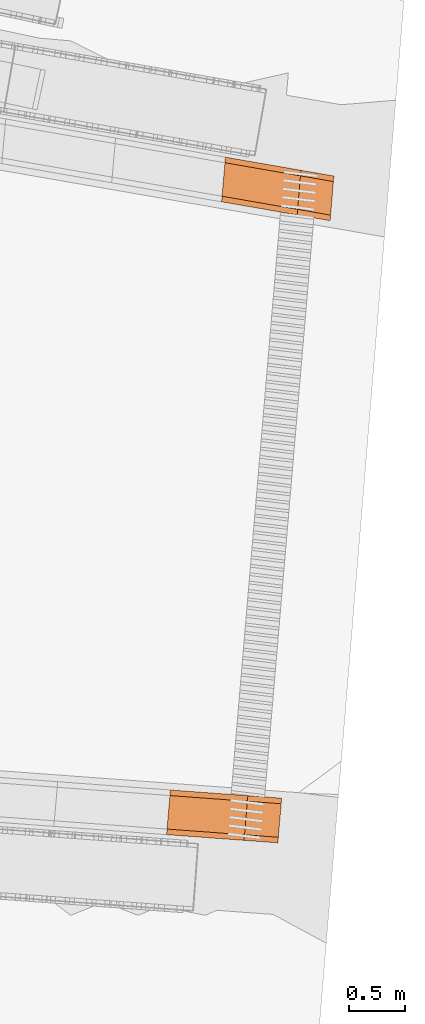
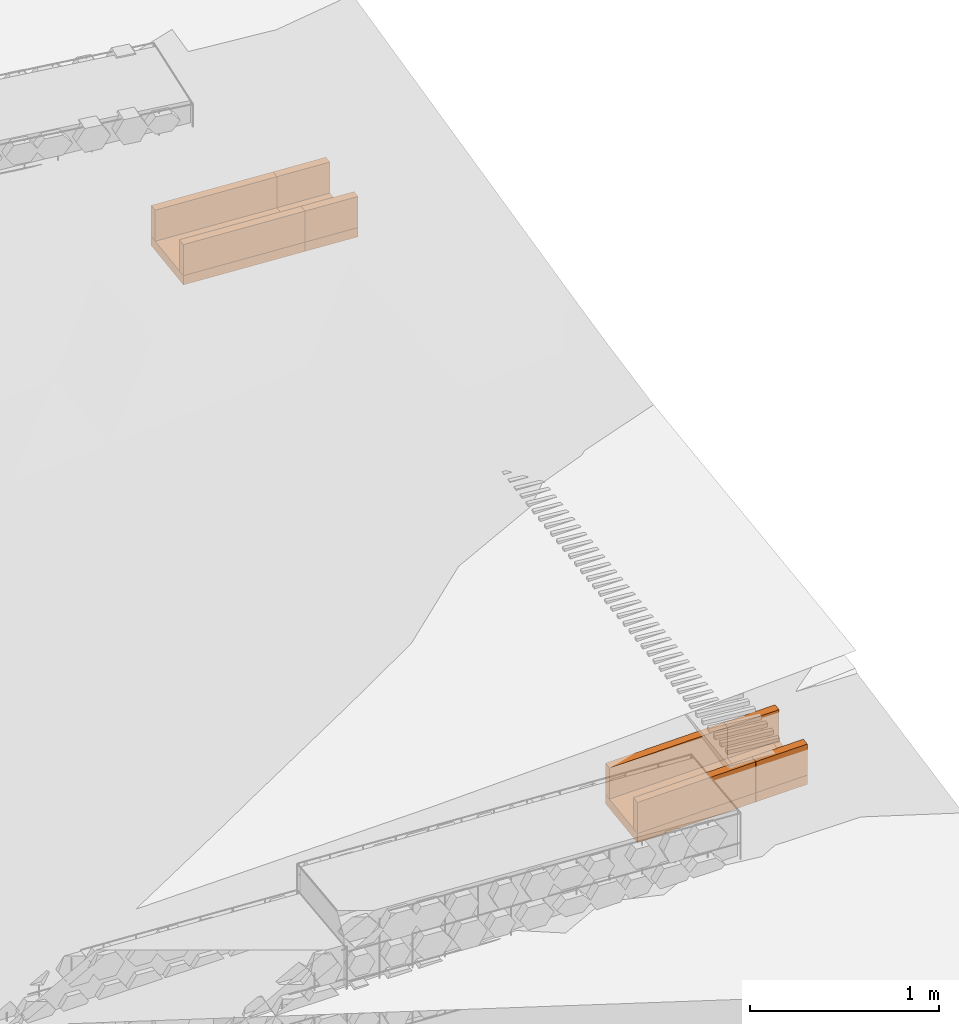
# Not in any storey, part 46 of 46: 12 proxies.
"""IFC4 model written with IfcOpenShell, lengths in metres."""

import ifcopenshell
import ifcopenshell.guid

model = None  # the IFC model being written
_history = None  # IfcOwnerHistory: only IFC2X3 demands one
_inside = {}  # id of a spatial element -> (the spatial element, [elements in it])
_under = {}  # id of a project, library or spatial element -> (it, [spatial elements below it])
_declared = {}  # id of a project -> (the project, [libraries it declares])
_typed = {}  # id of a type object -> (the type object, [elements of that type])
_made_of = {}  # id of a material, layer set ... -> (it, [elements and type objects made of it])


def new_model(schema):
    """Start an empty IFC model of exactly this schema.

    Asked for "IFC4X3", IfcOpenShell would pick the latest addendum, in which some entities
    have other attributes; the version numbers below select the first issue.
    IFC2X3 requires an IfcOwnerHistory on every rooted entity: one is made here for all.
    """
    global model, _history
    if schema == "IFC4X3":
        model = ifcopenshell.file(schema_version=(4, 3, 0, 0))
    else:
        model = ifcopenshell.file(schema=schema)
    _inside.clear()
    _under.clear()
    _declared.clear()
    _typed.clear()
    _made_of.clear()
    _history = None
    if model.schema == "IFC2X3":
        org = make("IfcOrganization", Name="unknown")
        user = make(
            "IfcPersonAndOrganization",
            ThePerson=make("IfcPerson", FamilyName="unknown"),
            TheOrganization=org,
        )
        app = make(
            "IfcApplication",
            ApplicationDeveloper=org,
            Version="unknown",
            ApplicationFullName="unknown",
            ApplicationIdentifier="unknown",
        )
        _history = make(
            "IfcOwnerHistory",
            OwningUser=user,
            OwningApplication=app,
            ChangeAction="ADDED",
            CreationDate=0,
        )
    return model


def make(cls, **values):
    """One entity of the class cls with the attributes given. An attribute that is None is left unset."""
    return model.create_entity(
        cls, **{name: value for name, value in values.items() if value is not None}
    )


def rooted(cls, **values):
    """An entity with a GlobalId (a new one), such as an element, a storey or a relation."""
    return make(cls, GlobalId=ifcopenshell.guid.new(), OwnerHistory=_history, **values)


def si_unit(unit_type, name, prefix=None):
    """IfcSIUnit, for example si_unit("LENGTHUNIT", "METRE", prefix="MILLI")."""
    return make("IfcSIUnit", UnitType=unit_type, Prefix=prefix, Name=name)


def assignment(units):
    """IfcUnitAssignment: the units of a project."""
    return None if units is None else make("IfcUnitAssignment", Units=units)


def point(xyz):
    """IfcCartesianPoint."""
    return None if xyz is None else make("IfcCartesianPoint", Coordinates=xyz)


def direction(xyz):
    """IfcDirection."""
    return None if xyz is None else make("IfcDirection", DirectionRatios=xyz)


def frame(location, z_axis=None, x_axis=None):
    """IfcAxis2Placement3D, a coordinate frame: its origin and axes. An axis left out is left unset."""
    return make(
        "IfcAxis2Placement3D",
        Location=point(location),
        Axis=direction(z_axis),
        RefDirection=direction(x_axis),
    )


def origin_with_axes():
    """The frame at (0, 0, 0) with the z axis (0, 0, 1) and the x axis (1, 0, 0) written out."""
    return frame((0.0, 0.0, 0.0), z_axis=(0.0, 0.0, 1.0), x_axis=(1.0, 0.0, 0.0))


def place(relative_to, where):
    """IfcLocalPlacement: puts the frame where relative to a parent placement (None: the world)."""
    return make(
        "IfcLocalPlacement", PlacementRelTo=relative_to, RelativePlacement=where
    )


def context(
    kind, dimensions, precision=None, world=None, true_north=None, identifier=None
):
    """IfcGeometricRepresentationContext, for example the 3D "Model" context."""
    return make(
        "IfcGeometricRepresentationContext",
        ContextIdentifier=identifier,
        ContextType=kind,
        CoordinateSpaceDimension=dimensions,
        Precision=precision,
        WorldCoordinateSystem=world,
        TrueNorth=true_north,
    )


def subcontext(parent, identifier, kind, view, scale=None):
    """IfcGeometricRepresentationSubContext, for example "Body" below "Model"."""
    return make(
        "IfcGeometricRepresentationSubContext",
        ContextIdentifier=identifier,
        ContextType=kind,
        ParentContext=parent,
        TargetScale=scale,
        TargetView=view,
    )


def project(units=None, contexts=None):
    """IfcProject with its units and contexts."""
    return rooted(
        "IfcProject",
        Name="project",
        RepresentationContexts=contexts,
        UnitsInContext=assignment(units),
    )


def spatial(cls, under=None, at=None, **own):
    """A site, building, storey or space (cls), placed at a placement, below another one or the project."""
    s = rooted(cls, ObjectPlacement=at, **own)
    if under is not None:
        _under.setdefault(under.id(), (under, []))[1].append(s)
    return s


def point_list(points):
    """IfcCartesianPointList2D or 3D."""
    cls = (
        "IfcCartesianPointList2D" if len(points[0]) == 2 else "IfcCartesianPointList3D"
    )
    return make(cls, CoordList=points)


def polygons(points, faces, closed=None, point_numbers=None):
    """IfcPolygonalFaceSet: a face is its outer loop, then its inner loops; points numbered from 1."""
    made = []
    for loops in faces:
        if len(loops) == 1:
            made.append(make("IfcIndexedPolygonalFace", CoordIndex=loops[0]))
        else:
            made.append(
                make(
                    "IfcIndexedPolygonalFaceWithVoids",
                    CoordIndex=loops[0],
                    InnerCoordIndices=loops[1:],
                )
            )
    return make(
        "IfcPolygonalFaceSet",
        Coordinates=point_list(points),
        Closed=closed,
        Faces=made,
        PnIndex=point_numbers,
    )


def shape(context_of_items, identifier, shape_type, items):
    """IfcShapeRepresentation: the items that make up one representation, for example the "Body"."""
    return make(
        "IfcShapeRepresentation",
        ContextOfItems=context_of_items,
        RepresentationIdentifier=identifier,
        RepresentationType=shape_type,
        Items=items,
    )


def material(Name=None, Category=None):
    """IfcMaterial."""
    return make("IfcMaterial", Name=Name, Category=Category)


def made_of(thing, what):
    """Note that an element or type object is made of a material, layer set ...; save() writes the relation."""
    if what is not None:
        _made_of.setdefault(what.id(), (what, []))[1].append(thing)
    return thing


def element(
    cls,
    number,
    at=None,
    inside=None,
    cuts=None,
    type_object=None,
    material=None,
    context=None,
    identifier="Body",
    shape_type=None,
    held_by="IfcProductDefinitionShape",
    body=None,
    shapes=None,
    **own,
):
    """One element of the class cls, such as IfcWall. Its Tag is "e" and its number.

    at: its placement. inside: the storey or other place that contains it. cuts: it is an
    opening in that element (IfcRelVoidsElement). A single representation is given by context,
    identifier, shape_type and body (its items); several are given by shapes. held_by: the class
    of the entity that holds the representations. save() writes the other relations.
    """
    e = rooted(cls, Tag="e%d" % number, ObjectPlacement=at, **own)
    if body is not None:
        shapes = [shape(context, identifier, shape_type, body)]
    if shapes is not None:
        e.Representation = make(held_by, Representations=shapes)
    if inside is not None:
        _inside.setdefault(inside.id(), (inside, []))[1].append(e)
    if cuts is not None:
        rooted(
            "IfcRelVoidsElement", RelatingBuildingElement=cuts, RelatedOpeningElement=e
        )
    if type_object is not None:
        _typed.setdefault(type_object.id(), (type_object, []))[1].append(e)
    return made_of(e, material)


def aggregate(whole, parts):
    """IfcRelAggregates: a whole, such as a stair, and the parts it consists of."""
    return rooted("IfcRelAggregates", RelatingObject=whole, RelatedObjects=parts)


def save(model, path):
    """Write the relations noted so far, then the file.

    IfcRelAggregates (storeys below a building ...), IfcRelContainedInSpatialStructure (elements
    in a storey), IfcRelDefinesByType, IfcRelAssociatesMaterial and IfcRelDeclares: one each for
    every whole, place, type object, material and project.
    """
    for whole, parts in _under.values():
        aggregate(whole, parts)
    for where, things in _inside.values():
        rooted(
            "IfcRelContainedInSpatialStructure",
            RelatedElements=things,
            RelatingStructure=where,
        )
    for kind, things in _typed.values():
        rooted("IfcRelDefinesByType", RelatedObjects=things, RelatingType=kind)
    for what, things in _made_of.values():
        rooted("IfcRelAssociatesMaterial", RelatedObjects=things, RelatingMaterial=what)
    for by, libraries in _declared.values():
        rooted("IfcRelDeclares", RelatingContext=by, RelatedDefinitions=libraries)
    model.write(path)


model = new_model("IFC4")

# Units and contexts
model_context = context("Model", 3, precision=1e-05, world=origin_with_axes(), true_north=direction((0.0, 1.0)))
body_context = subcontext(model_context, "Body", "Model", "MODEL_VIEW")
ifc_project = project(units=[si_unit("VOLUMEUNIT", "CUBIC_METRE"), si_unit("LENGTHUNIT", "METRE"), si_unit("AREAUNIT", "SQUARE_METRE")], contexts=[model_context])

# Site
site_placement = place(None, origin_with_axes())
site = spatial("IfcSite", under=ifc_project, at=site_placement, Name="Lares · Rua das Mercês · artigo 4771")

# Proxies
ifc_material = material(Name="Caleiras · betão", Category="concrete")
proxy_1_placement = place(site_placement, frame((0.0, 0.0, 0.0), z_axis=(0.0, 0.0, 1.0), x_axis=(1.0, -1.03767253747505e-17, 0.0)))
element("IfcBuildingElementProxy", 1, at=proxy_1_placement, inside=site, material=ifc_material, Name="Acesso · canal lateral", ObjectType="Acesso · canal lateral", PredefinedType="USERDEFINED", context=body_context, shape_type="Tessellation", body=[
    polygons([(81.7482616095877, 0.159999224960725, 15.793741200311), (81.7825066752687, 0.558530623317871, 15.793741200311), (82.473717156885, 0.5077103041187, 15.8449472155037), (82.439472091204, 0.109178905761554, 15.8449472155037), (81.7482616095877, 0.159999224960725, 15.853741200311), (81.7825066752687, 0.558530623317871, 15.853741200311), (82.473717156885, 0.5077103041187, 15.9049472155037), (82.439472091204, 0.109178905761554, 15.9049472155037)], [[[4, 3, 2, 1]], [[5, 6, 7, 8]], [[1, 2, 6, 5]], [[2, 3, 7, 6]], [[3, 4, 8, 7]], [[4, 1, 5, 8]]]),
])
proxy_2_placement = place(site_placement, frame((0.0, 0.0, 0.0), z_axis=(0.0, 0.0, 1.0), x_axis=(1.0, -1.03767253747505e-17, 0.0)))
element("IfcBuildingElementProxy", 2, at=proxy_2_placement, inside=site, material=ifc_material, Name="Acesso · canal lateral", ObjectType="Acesso · canal lateral", PredefinedType="USERDEFINED", context=body_context, shape_type="Tessellation", body=[
    polygons([(81.7482616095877, 0.159999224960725, 15.853741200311), (81.7525422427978, 0.209815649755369, 15.853741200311), (82.4437527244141, 0.158995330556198, 15.9049472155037), (82.439472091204, 0.109178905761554, 15.9049472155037), (81.7482616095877, 0.159999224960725, 16.053741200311), (81.7525422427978, 0.209815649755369, 16.053741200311), (82.4437527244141, 0.158995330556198, 16.1049472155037), (82.439472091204, 0.109178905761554, 16.1049472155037)], [[[4, 3, 2, 1]], [[5, 6, 7, 8]], [[1, 2, 6, 5]], [[2, 3, 7, 6]], [[3, 4, 8, 7]], [[4, 1, 5, 8]]]),
])
proxy_3_placement = place(site_placement, frame((0.0, 0.0, 0.0), z_axis=(0.0, 0.0, 1.0), x_axis=(1.0, -1.03767253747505e-17, 0.0)))
element("IfcBuildingElementProxy", 3, at=proxy_3_placement, inside=site, material=ifc_material, Name="Acesso · canal lateral", ObjectType="Acesso · canal lateral", PredefinedType="USERDEFINED", context=body_context, shape_type="Tessellation", body=[
    polygons([(81.7782260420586, 0.508714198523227, 15.853741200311), (81.7825066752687, 0.558530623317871, 15.853741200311), (82.473717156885, 0.5077103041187, 15.9049472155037), (82.4694365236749, 0.457893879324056, 15.9049472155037), (81.7782260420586, 0.508714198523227, 16.053741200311), (81.7825066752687, 0.558530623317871, 16.053741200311), (82.473717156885, 0.5077103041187, 16.1049472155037), (82.4694365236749, 0.457893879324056, 16.1049472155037)], [[[4, 3, 2, 1]], [[5, 6, 7, 8]], [[1, 2, 6, 5]], [[2, 3, 7, 6]], [[3, 4, 8, 7]], [[4, 1, 5, 8]]]),
])
proxy_4_placement = place(site_placement, frame((0.0, 0.0, 0.0), z_axis=(0.0, 0.0, 1.0), x_axis=(1.0, -1.03767253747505e-17, 0.0)))
element("IfcBuildingElementProxy", 4, at=proxy_4_placement, inside=site, material=ifc_material, Name="Acesso · canal lateral", ObjectType="Acesso · canal lateral", PredefinedType="USERDEFINED", context=body_context, shape_type="Tessellation", body=[
    polygons([(82.4397681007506, 0.109153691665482, 15.8449472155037), (82.4734211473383, 0.507735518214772, 15.8449472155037), (82.7749498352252, 0.485566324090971, 15.8672846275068), (82.7412967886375, 0.0869844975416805, 15.8672846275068), (82.4397681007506, 0.109153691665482, 15.9049472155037), (82.4734211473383, 0.507735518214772, 15.9049472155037), (82.7749498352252, 0.485566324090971, 15.9272846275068), (82.7412967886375, 0.0869844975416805, 15.9272846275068)], [[[4, 3, 2, 1]], [[5, 6, 7, 8]], [[1, 2, 6, 5]], [[2, 3, 7, 6]], [[3, 4, 8, 7]], [[4, 1, 5, 8]]]),
])
proxy_5_placement = place(site_placement, frame((0.0, 0.0, 0.0), z_axis=(0.0, 0.0, 1.0), x_axis=(1.0, -1.03767253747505e-17, 0.0)))
element("IfcBuildingElementProxy", 5, at=proxy_5_placement, inside=site, material=ifc_material, Name="Acesso · canal lateral", ObjectType="Acesso · canal lateral", PredefinedType="USERDEFINED", context=body_context, shape_type="Tessellation", body=[
    polygons([(82.4397681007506, 0.109153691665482, 15.9049472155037), (82.4439747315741, 0.158976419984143, 15.9049472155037), (82.745503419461, 0.136807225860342, 15.9272846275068), (82.7412967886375, 0.0869844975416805, 15.9272846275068), (82.4397681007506, 0.109153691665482, 16.1049472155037), (82.4439747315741, 0.158976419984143, 16.1049472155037), (82.745503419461, 0.136807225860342, 16.1272846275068), (82.7412967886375, 0.0869844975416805, 16.1272846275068)], [[[4, 3, 2, 1]], [[5, 6, 7, 8]], [[1, 2, 6, 5]], [[2, 3, 7, 6]], [[3, 4, 8, 7]], [[4, 1, 5, 8]]]),
])
proxy_6_placement = place(site_placement, frame((0.0, 0.0, 0.0), z_axis=(0.0, 0.0, 1.0), x_axis=(1.0, -1.03767253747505e-17, 0.0)))
element("IfcBuildingElementProxy", 6, at=proxy_6_placement, inside=site, material=ifc_material, Name="Acesso · canal lateral", ObjectType="Acesso · canal lateral", PredefinedType="USERDEFINED", context=body_context, shape_type="Tessellation", body=[
    polygons([(82.4692145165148, 0.457912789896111, 15.9049472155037), (82.4734211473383, 0.507735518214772, 15.9049472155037), (82.7749498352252, 0.485566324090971, 15.9272846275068), (82.7707432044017, 0.43574359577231, 15.9272846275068), (82.4692145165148, 0.457912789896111, 16.1049472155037), (82.4734211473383, 0.507735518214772, 16.1049472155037), (82.7749498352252, 0.485566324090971, 16.1272846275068), (82.7707432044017, 0.43574359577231, 16.1272846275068)], [[[4, 3, 2, 1]], [[5, 6, 7, 8]], [[1, 2, 6, 5]], [[2, 3, 7, 6]], [[3, 4, 8, 7]], [[4, 1, 5, 8]]]),
])
proxy_7_placement = place(site_placement, frame((0.0, 0.0, 0.0), z_axis=(0.0, 0.0, 1.0), x_axis=(1.0, -1.03767253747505e-17, 0.0)))
element("IfcBuildingElementProxy", 7, at=proxy_7_placement, inside=site, material=ifc_material, Name="Acesso · canal lateral", ObjectType="Acesso · canal lateral", PredefinedType="USERDEFINED", context=body_context, shape_type="Tessellation", body=[
    polygons([(82.2390938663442, 5.80476864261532, 15.793741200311), (82.2733389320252, 6.20330004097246, 15.793741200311), (82.947270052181, 6.08618051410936, 15.8449472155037), (82.9130249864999, 5.68764911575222, 15.8449472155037), (82.2390938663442, 5.80476864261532, 15.853741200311), (82.2733389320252, 6.20330004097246, 15.853741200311), (82.947270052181, 6.08618051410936, 15.9049472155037), (82.9130249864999, 5.68764911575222, 15.9049472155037)], [[[4, 3, 2, 1]], [[5, 6, 7, 8]], [[1, 2, 6, 5]], [[2, 3, 7, 6]], [[3, 4, 8, 7]], [[4, 1, 5, 8]]]),
])
proxy_8_placement = place(site_placement, frame((0.0, 0.0, 0.0), z_axis=(0.0, 0.0, 1.0), x_axis=(1.0, -1.03767253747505e-17, 0.0)))
element("IfcBuildingElementProxy", 8, at=proxy_8_placement, inside=site, material=ifc_material, Name="Acesso · canal lateral", ObjectType="Acesso · canal lateral", PredefinedType="USERDEFINED", context=body_context, shape_type="Tessellation", body=[
    polygons([(82.2390938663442, 5.80476864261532, 15.853741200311), (82.2433744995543, 5.85458506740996, 15.853741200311), (82.91730561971, 5.73746554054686, 15.9049472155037), (82.9130249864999, 5.68764911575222, 15.9049472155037), (82.2390938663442, 5.80476864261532, 16.053741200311), (82.2433744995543, 5.85458506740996, 16.053741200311), (82.91730561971, 5.73746554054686, 16.1049472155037), (82.9130249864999, 5.68764911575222, 16.1049472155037)], [[[4, 3, 2, 1]], [[5, 6, 7, 8]], [[1, 2, 6, 5]], [[2, 3, 7, 6]], [[3, 4, 8, 7]], [[4, 1, 5, 8]]]),
])
proxy_9_placement = place(site_placement, frame((0.0, 0.0, 0.0), z_axis=(0.0, 0.0, 1.0), x_axis=(1.0, -1.03767253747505e-17, 0.0)))
element("IfcBuildingElementProxy", 9, at=proxy_9_placement, inside=site, material=ifc_material, Name="Acesso · canal lateral", ObjectType="Acesso · canal lateral", PredefinedType="USERDEFINED", context=body_context, shape_type="Tessellation", body=[
    polygons([(82.2690582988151, 6.15348361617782, 15.853741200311), (82.2733389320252, 6.20330004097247, 15.853741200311), (82.947270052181, 6.08618051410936, 15.9049472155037), (82.9429894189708, 6.03636408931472, 15.9049472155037), (82.2690582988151, 6.15348361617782, 16.053741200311), (82.2733389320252, 6.20330004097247, 16.053741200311), (82.947270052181, 6.08618051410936, 16.1049472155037), (82.9429894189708, 6.03636408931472, 16.1049472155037)], [[[4, 3, 2, 1]], [[5, 6, 7, 8]], [[1, 2, 6, 5]], [[2, 3, 7, 6]], [[3, 4, 8, 7]], [[4, 1, 5, 8]]]),
])
proxy_10_placement = place(site_placement, frame((0.0, 0.0, 0.0), z_axis=(0.0, 0.0, 1.0), x_axis=(1.0, -1.03767253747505e-17, 0.0)))
element("IfcBuildingElementProxy", 10, at=proxy_10_placement, inside=site, material=ifc_material, Name="Acesso · canal lateral", ObjectType="Acesso · canal lateral", PredefinedType="USERDEFINED", context=body_context, shape_type="Tessellation", body=[
    polygons([(82.9133209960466, 5.68762390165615, 15.8449472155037), (82.9469740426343, 6.08620572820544, 15.8449472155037), (83.2409560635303, 6.03511513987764, 15.8672846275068), (83.2073030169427, 5.63653331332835, 15.8672846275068), (82.9133209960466, 5.68762390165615, 15.9049472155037), (82.9469740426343, 6.08620572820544, 15.9049472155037), (83.2409560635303, 6.03511513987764, 15.9272846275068), (83.2073030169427, 5.63653331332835, 15.9272846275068)], [[[4, 3, 2, 1]], [[5, 6, 7, 8]], [[1, 2, 6, 5]], [[2, 3, 7, 6]], [[3, 4, 8, 7]], [[4, 1, 5, 8]]]),
])
proxy_11_placement = place(site_placement, frame((0.0, 0.0, 0.0), z_axis=(0.0, 0.0, 1.0), x_axis=(1.0, -1.03767253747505e-17, 0.0)))
element("IfcBuildingElementProxy", 11, at=proxy_11_placement, inside=site, material=ifc_material, Name="Acesso · canal lateral", ObjectType="Acesso · canal lateral", PredefinedType="USERDEFINED", context=body_context, shape_type="Tessellation", body=[
    polygons([(82.9133209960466, 5.68762390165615, 15.9049472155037), (82.9175276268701, 5.73744662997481, 15.9049472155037), (83.2115096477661, 5.68635604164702, 15.9272846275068), (83.2073030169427, 5.63653331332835, 15.9272846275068), (82.9133209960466, 5.68762390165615, 16.1049472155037), (82.9175276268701, 5.73744662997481, 16.1049472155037), (83.2115096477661, 5.68635604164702, 16.1272846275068), (83.2073030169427, 5.63653331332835, 16.1272846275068)], [[[4, 3, 2, 1]], [[5, 6, 7, 8]], [[1, 2, 6, 5]], [[2, 3, 7, 6]], [[3, 4, 8, 7]], [[4, 1, 5, 8]]]),
])
proxy_12_placement = place(site_placement, frame((0.0, 0.0, 0.0), z_axis=(0.0, 0.0, 1.0), x_axis=(1.0, -1.03767253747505e-17, 0.0)))
element("IfcBuildingElementProxy", 12, at=proxy_12_placement, inside=site, material=ifc_material, Name="Acesso · canal lateral", ObjectType="Acesso · canal lateral", PredefinedType="USERDEFINED", context=body_context, shape_type="Tessellation", body=[
    polygons([(82.9427674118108, 6.03638299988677, 15.9049472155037), (82.9469740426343, 6.08620572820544, 15.9049472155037), (83.2409560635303, 6.03511513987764, 15.9272846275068), (83.2367494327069, 5.98529241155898, 15.9272846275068), (82.9427674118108, 6.03638299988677, 16.1049472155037), (82.9469740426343, 6.08620572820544, 16.1049472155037), (83.2409560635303, 6.03511513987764, 16.1272846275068), (83.2367494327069, 5.98529241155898, 16.1272846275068)], [[[4, 3, 2, 1]], [[5, 6, 7, 8]], [[1, 2, 6, 5]], [[2, 3, 7, 6]], [[3, 4, 8, 7]], [[4, 1, 5, 8]]]),
])

save(model, "model.ifc")
